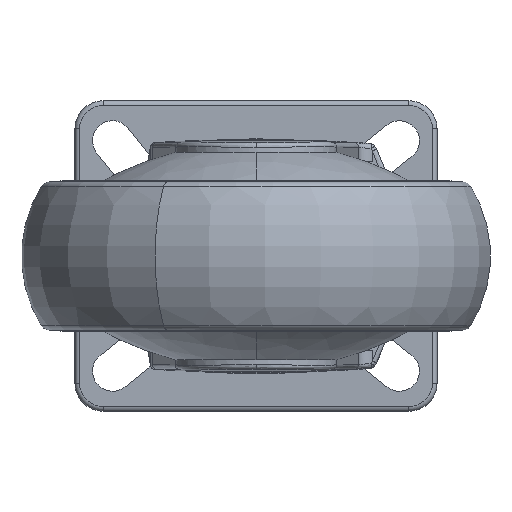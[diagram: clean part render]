
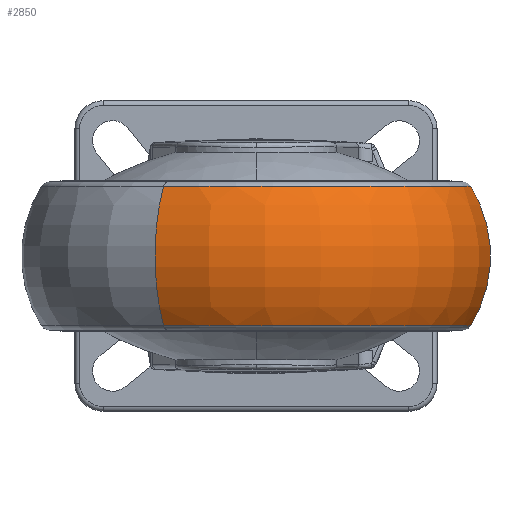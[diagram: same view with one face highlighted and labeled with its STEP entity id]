
A CAD part, front view. The second image highlights one B-rep face of the part: STEP entity #2850.
In plain terms, the highlighted toroidal (fillet/blend) face has major radius 22 mm and minor radius 28 mm.
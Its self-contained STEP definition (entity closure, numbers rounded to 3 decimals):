
#2165 = EDGE_CURVE ( 'NONE', #21012, #21042, #25292, .T. ) ;
#2234 = EDGE_CURVE ( 'NONE', #21005, #21044, #25329, .T. ) ;
#2768 = ORIENTED_EDGE ( 'NONE', *, *, #2165, .T. ) ;
#2770 = ORIENTED_EDGE ( 'NONE', *, *, #2234, .F. ) ;
#2820 = ORIENTED_EDGE ( 'NONE', *, *, #2899, .F. ) ;
#2850 = ADVANCED_FACE ( 'NONE', ( #26141 ), #26154, .T. ) ;
#2899 = EDGE_CURVE ( 'NONE', #21044, #21042, #26106, .T. ) ;
#2946 = ORIENTED_EDGE ( 'NONE', *, *, #20971, .T. ) ;
#2962 = EDGE_LOOP ( 'NONE', ( #2770, #2946, #2768, #2820 ) ) ;
#20971 = EDGE_CURVE ( 'NONE', #21005, #21012, #31621, .T. ) ;
#21005 = VERTEX_POINT ( 'NONE', #31760 ) ;
#21012 = VERTEX_POINT ( 'NONE', #31752 ) ;
#21042 = VERTEX_POINT ( 'NONE', #31772 ) ;
#21044 = VERTEX_POINT ( 'NONE', #31790 ) ;
#25292 = CIRCLE ( 'NONE', #25398, 28. ) ;
#25317 = DIRECTION ( 'NONE',  ( -0.903, 0.429, 0. ) ) ;
#25329 = CIRCLE ( 'NONE', #25344, 28. ) ;
#25340 = CARTESIAN_POINT ( 'NONE',  ( -7.293, -60.795, -0.432 ) ) ;
#25344 = AXIS2_PLACEMENT_3D ( 'NONE', #25340, #25317, #25455 ) ;
#25348 = DIRECTION ( 'NONE',  ( 0.429, 0.903, 0. ) ) ;
#25349 = DIRECTION ( 'NONE',  ( 0.903, -0.429, 0. ) ) ;
#25390 = CARTESIAN_POINT ( 'NONE',  ( 11.6, -21.058, -0.432 ) ) ;
#25398 = AXIS2_PLACEMENT_3D ( 'NONE', #25390, #25349, #25348 ) ;
#25455 = DIRECTION ( 'NONE',  ( -0.429, -0.903, 0. ) ) ;
#26104 = CARTESIAN_POINT ( 'NONE',  ( 2.153, -40.926, 14.375 ) ) ;
#26105 = AXIS2_PLACEMENT_3D ( 'NONE', #26104, #26223, #26222 ) ;
#26106 = CIRCLE ( 'NONE', #26105, 45.764 ) ;
#26132 = DIRECTION ( 'NONE',  ( 0.429, 0.903, 0. ) ) ;
#26135 = AXIS2_PLACEMENT_3D ( 'NONE', #26145, #26144, #26132 ) ;
#26141 = FACE_OUTER_BOUND ( 'NONE', #2962, .T. ) ;
#26144 = DIRECTION ( 'NONE',  ( 0., 0., 1. ) ) ;
#26145 = CARTESIAN_POINT ( 'NONE',  ( 2.153, -40.926, -0.432 ) ) ;
#26154 = TOROIDAL_SURFACE ( 'NONE', #26135, 22., 28. ) ;
#26222 = DIRECTION ( 'NONE',  ( 0.429, 0.903, 0. ) ) ;
#26223 = DIRECTION ( 'NONE',  ( 0., 0., 1. ) ) ;
#31620 = CARTESIAN_POINT ( 'NONE',  ( 2.153, -40.926, -15.24 ) ) ;
#31621 = CIRCLE ( 'NONE', #31710, 45.764 ) ;
#31707 = DIRECTION ( 'NONE',  ( 0.429, 0.903, 0. ) ) ;
#31709 = DIRECTION ( 'NONE',  ( 0., 0., 1. ) ) ;
#31710 = AXIS2_PLACEMENT_3D ( 'NONE', #31620, #31709, #31707 ) ;
#31752 = CARTESIAN_POINT ( 'NONE',  ( 21.803, 0.404, -15.24 ) ) ;
#31760 = CARTESIAN_POINT ( 'NONE',  ( -17.497, -82.257, -15.24 ) ) ;
#31772 = CARTESIAN_POINT ( 'NONE',  ( 21.803, 0.404, 14.375 ) ) ;
#31790 = CARTESIAN_POINT ( 'NONE',  ( -17.497, -82.257, 14.375 ) ) ;
